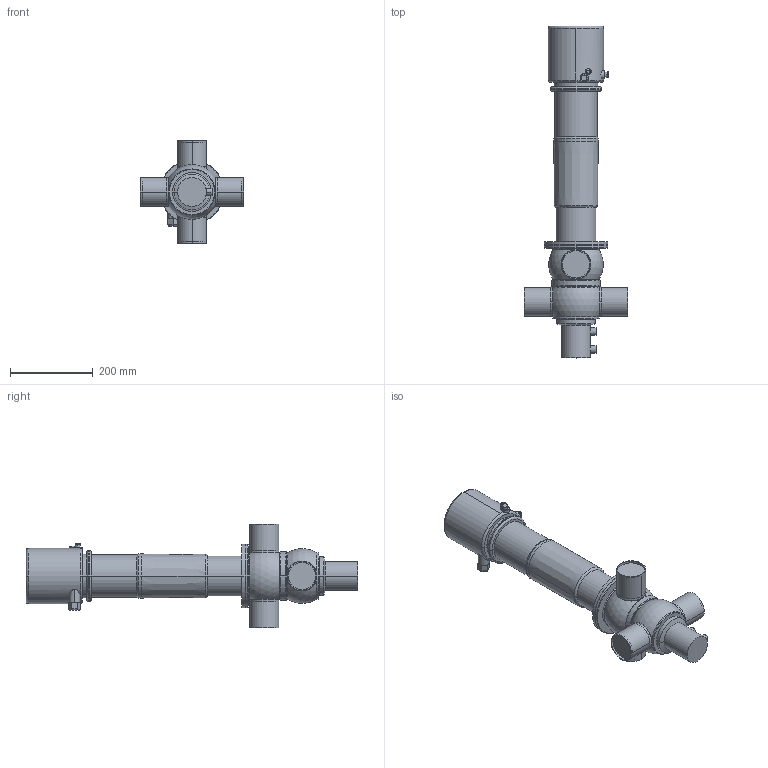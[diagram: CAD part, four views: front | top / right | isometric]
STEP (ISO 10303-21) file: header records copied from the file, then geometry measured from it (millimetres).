
FILE_DESCRIPTION(('Creo Elements/Direct Modeling STEP Export'),'2;1');
FILE_NAME('D44-65_CU4.stp','2019-09-03T14:58:26',(''),(''),'PTC Creo Elements/Direct Modeling STEP processor for AP214 (Solid Model)','PTC Creo Elements/Direct Modeling 19.0B 21-Mar-2015 (C) Parametric Technology GmbH','');
FILE_SCHEMA(('AUTOMOTIVE_DESIGN { 1 0 10303 214 1 1 1 1 }'));
Length unit declared in the file: millimetre
Products named in the file (5): CU41-D4; actuator_D4-100_yoke; drain_pipe-62; housing_D44-65; D44-65_CU4
Assembly tree (4 placements, depth 2):
  D44-65_CU4
    housing_D44-65
    drain_pipe-62
    actuator_D4-100_yoke
    CU41-D4
Bounding box: 250 x 804.7 x 250 mm (x, y, z)
Volume: 8971483.3 mm3; surface area: 483088.6 mm2
Topology: 4 solids, 4 shells, 254 faces, 593 edges, 375 vertices
Faces by surface type: cylinder 100, plane 63, torus 44, extrusion 33, cone 10, sphere 4
Entity records: 11561 total; most frequent: CARTESIAN_POINT 6109, ORIENTED_EDGE 1186, DIRECTION 996, EDGE_CURVE 593, AXIS2_PLACEMENT_3D 396, VERTEX_POINT 375, EDGE_LOOP 282, FACE_OUTER_BOUND 254
